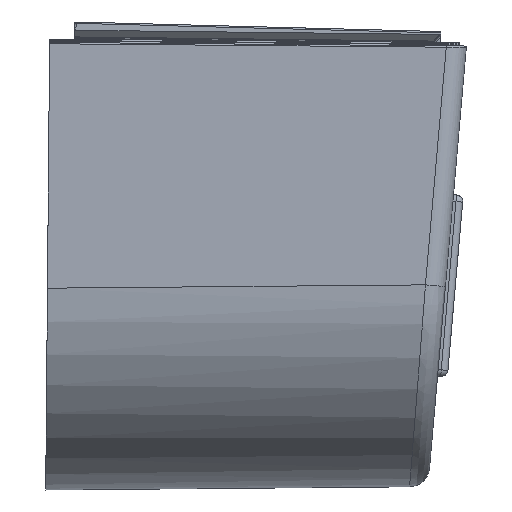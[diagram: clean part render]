
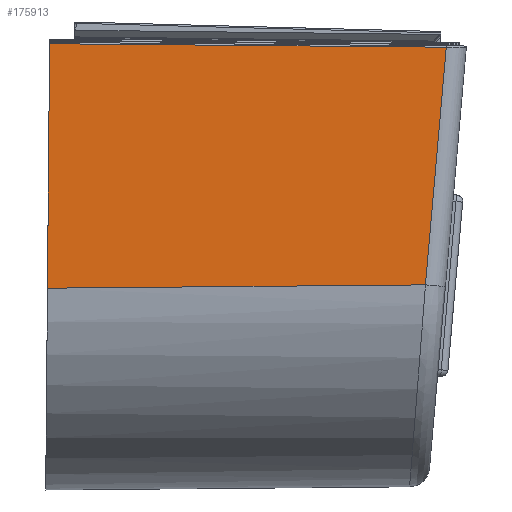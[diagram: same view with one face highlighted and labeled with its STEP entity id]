
A CAD part, left-side view. The second image highlights one B-rep face of the part: STEP entity #175913.
In plain terms, the highlighted planar face has unit normal (-1, -0.009, 0).
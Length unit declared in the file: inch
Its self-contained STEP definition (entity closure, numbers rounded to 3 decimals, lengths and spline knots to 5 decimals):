
#170713=CARTESIAN_POINT('',(-2.57088,-0.05386,2.82643));
#170714=VERTEX_POINT('',#170713);
#170722=CARTESIAN_POINT('',(-2.57077,-0.06634,4.25698));
#170723=VERTEX_POINT('',#170722);
#170724=CARTESIAN_POINT('',(-2.57077,-0.06634,4.25698));
#170725=DIRECTION('',(0.,0.009,-1.));
#170726=VECTOR('',#170725,1.4306);
#170727=LINE('',#170724,#170726);
#170728=EDGE_CURVE('',#170723,#170714,#170727,.T.);
#174185=CARTESIAN_POINT('',(-2.55157,-2.26598,2.84574));
#174186=VERTEX_POINT('',#174185);
#175708=CARTESIAN_POINT('',(-2.55051,-2.38767,4.23672));
#175709=VERTEX_POINT('',#175708);
#175734=CARTESIAN_POINT('',(-2.55157,-2.26598,2.84574));
#175735=DIRECTION('',(0.001,-0.087,0.996));
#175736=VECTOR('',#175735,1.39629);
#175737=LINE('',#175734,#175736);
#175738=EDGE_CURVE('',#174186,#175709,#175737,.T.);
#175892=CARTESIAN_POINT('',(-2.54946,-2.50753,1.66481));
#175893=DIRECTION('',(-1.,-0.009,0.));
#175894=DIRECTION('',(0.0,0.0,1.0));
#175895=AXIS2_PLACEMENT_3D('',#175892,#175893,#175894);
#175896=PLANE('',#175895);
#175897=ORIENTED_EDGE('',*,*,#175738,.T.);
#175898=CARTESIAN_POINT('',(-2.55051,-2.38767,4.23672));
#175899=DIRECTION('',(-0.009,1.,0.009));
#175900=VECTOR('',#175899,2.32151);
#175901=LINE('',#175898,#175900);
#175902=EDGE_CURVE('',#175709,#170723,#175901,.T.);
#175903=ORIENTED_EDGE('',*,*,#175902,.T.);
#175904=ORIENTED_EDGE('',*,*,#170728,.T.);
#175905=CARTESIAN_POINT('',(-2.57088,-0.05386,2.82643));
#175906=DIRECTION('',(0.009,-1.,0.009));
#175907=VECTOR('',#175906,2.21229);
#175908=LINE('',#175905,#175907);
#175909=EDGE_CURVE('',#170714,#174186,#175908,.T.);
#175910=ORIENTED_EDGE('',*,*,#175909,.T.);
#175911=EDGE_LOOP('',(#175897,#175903,#175904,#175910));
#175912=FACE_OUTER_BOUND('',#175911,.T.);
#175913=ADVANCED_FACE('',(#175912),#175896,.T.);
